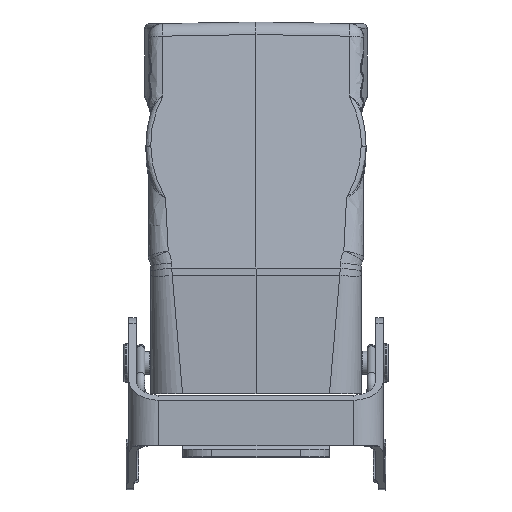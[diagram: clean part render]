
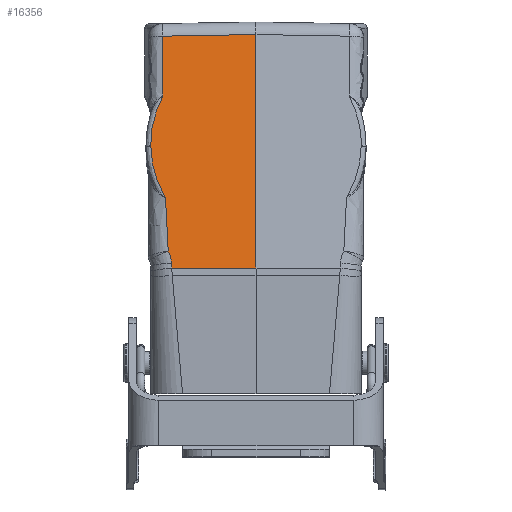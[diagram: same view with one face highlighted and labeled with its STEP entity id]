
A CAD part, left-side view. The second image highlights one B-rep face of the part: STEP entity #16356.
In plain terms, the highlighted planar face has unit normal (-0.989, 0.018, 0.145).
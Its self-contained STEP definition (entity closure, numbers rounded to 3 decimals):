
#449 = CARTESIAN_POINT ( 'NONE',  ( 19.863, 39.393, -59.289 ) ) ;
#986 = CARTESIAN_POINT ( 'NONE',  ( 19.714, 39.329, -60.299 ) ) ;
#1247 = ORIENTED_EDGE ( 'NONE', *, *, #13855, .F. ) ;
#1406 = CARTESIAN_POINT ( 'NONE',  ( 24.468, 42.609, -28.359 ) ) ;
#1798 = CARTESIAN_POINT ( 'NONE',  ( 23.461, 43.627, -35.333 ) ) ;
#2215 = EDGE_CURVE ( 'NONE', #22436, #29848, #15497, .T. ) ;
#2833 = ORIENTED_EDGE ( 'NONE', *, *, #2215, .F. ) ;
#3705 = CARTESIAN_POINT ( 'NONE',  ( 19.787, 39.365, -59.807 ) ) ;
#3736 = CARTESIAN_POINT ( 'NONE',  ( 19.863, 39.393, -59.289 ) ) ;
#4000 = EDGE_CURVE ( 'NONE', #28697, #14974, #29955, .T. ) ;
#4546 = DIRECTION ( 'NONE',  ( -0.145, 0., -0.989 ) ) ;
#4681 = DIRECTION ( 'NONE',  ( 0.989, -0.017, -0.145 ) ) ;
#5615 = CARTESIAN_POINT ( 'NONE',  ( 22.101, 41.57, -44.333 ) ) ;
#5683 = ORIENTED_EDGE ( 'NONE', *, *, #38332, .F. ) ;
#5743 = CARTESIAN_POINT ( 'NONE',  ( 26.717, 41.164, -12.896 ) ) ;
#6670 = CARTESIAN_POINT ( 'NONE',  ( 24.918, 41.14, -25.128 ) ) ;
#7296 = VECTOR ( 'NONE', #13820, 1000. ) ;
#7559 = CARTESIAN_POINT ( 'NONE',  ( 24.918, 41.14, -25.128 ) ) ;
#7623 = CARTESIAN_POINT ( 'NONE',  ( 26.717, 41.164, -12.896 ) ) ;
#7854 = B_SPLINE_CURVE_WITH_KNOTS ( 'NONE', 3,
 ( #21488, #33531, #30308, #39684, #11929, #33394, #15047, #18651, #3705, #30967, #27918, #449 ),
 .UNSPECIFIED., .F., .F.,
 ( 4, 2, 1, 1, 2, 2, 4 ),
 ( 0., 0.25, 0.375, 0.437, 0.469, 0.5, 1. ),
 .UNSPECIFIED. ) ;
#7945 = AXIS2_PLACEMENT_3D ( 'NONE', #35654, #4681, #4546 ) ;
#8127 = CARTESIAN_POINT ( 'NONE',  ( 21.315, 40.458, -49.545 ) ) ;
#8175 = CARTESIAN_POINT ( 'NONE',  ( 20.243, 40.056, -56.776 ) ) ;
#8228 = B_SPLINE_CURVE_WITH_KNOTS ( 'NONE', 3,
 ( #24306, #5615, #39400, #14619, #8815, #36455 ),
 .UNSPECIFIED., .F., .F.,
 ( 4, 2, 4 ),
 ( 0., 0.5, 1. ),
 .UNSPECIFIED. ) ;
#8270 = VERTEX_POINT ( 'NONE', #21212 ) ;
#8815 = CARTESIAN_POINT ( 'NONE',  ( 23.187, 43.604, -37.19 ) ) ;
#8822 = ORIENTED_EDGE ( 'NONE', *, *, #13133, .F. ) ;
#9094 = CARTESIAN_POINT ( 'NONE',  ( 19.863, 39.393, -59.289 ) ) ;
#9461 = VERTEX_POINT ( 'NONE', #15440 ) ;
#10638 = CARTESIAN_POINT ( 'NONE',  ( 26.717, 41.164, -12.896 ) ) ;
#10949 = CARTESIAN_POINT ( 'NONE',  ( 20.78, 40.275, -53.162 ) ) ;
#11084 = CARTESIAN_POINT ( 'NONE',  ( 24.702, 41.974, -26.692 ) ) ;
#11929 = CARTESIAN_POINT ( 'NONE',  ( 19.765, 39.356, -59.95 ) ) ;
#13022 = CARTESIAN_POINT ( 'NONE',  ( 20.118, 39.671, -57.559 ) ) ;
#13133 = EDGE_CURVE ( 'NONE', #8270, #19746, #20604, .T. ) ;
#13820 = DIRECTION ( 'NONE',  ( -0.015, -1., 0.017 ) ) ;
#13855 = EDGE_CURVE ( 'NONE', #37013, #22436, #19102, .T. ) ;
#14619 = CARTESIAN_POINT ( 'NONE',  ( 22.91, 43.332, -39.042 ) ) ;
#14974 = VERTEX_POINT ( 'NONE', #21458 ) ;
#15047 = CARTESIAN_POINT ( 'NONE',  ( 19.782, 39.363, -59.839 ) ) ;
#15295 = EDGE_CURVE ( 'NONE', #14974, #9461, #8228, .T. ) ;
#15440 = CARTESIAN_POINT ( 'NONE',  ( 23.461, 43.627, -35.333 ) ) ;
#15497 = LINE ( 'NONE', #7623, #7296 ) ;
#15628 = EDGE_CURVE ( 'NONE', #29848, #8270, #24168, .T. ) ;
#16356 = ADVANCED_FACE ( 'NONE', ( #19332 ), #32707, .F. ) ;
#17160 = CARTESIAN_POINT ( 'NONE',  ( 20.243, 40.056, -56.776 ) ) ;
#17434 = VECTOR ( 'NONE', #20639, 1000. ) ;
#17536 = CARTESIAN_POINT ( 'NONE',  ( 19.307, 22.111, -61. ) ) ;
#18269 = EDGE_CURVE ( 'NONE', #9461, #37013, #19548, .T. ) ;
#18651 = CARTESIAN_POINT ( 'NONE',  ( 19.785, 39.364, -59.817 ) ) ;
#18688 = CARTESIAN_POINT ( 'NONE',  ( 19.986, 39.444, -58.419 ) ) ;
#18991 = CARTESIAN_POINT ( 'NONE',  ( 26.43, 22.111, -12.563 ) ) ;
#19102 = B_SPLINE_CURVE_WITH_KNOTS ( 'NONE', 3,
 ( #7559, #35187, #19681, #10638 ),
 .UNSPECIFIED., .F., .F.,
 ( 4, 4 ),
 ( 0., 1. ),
 .UNSPECIFIED. ) ;
#19332 = FACE_OUTER_BOUND ( 'NONE', #37876, .T. ) ;
#19548 = B_SPLINE_CURVE_WITH_KNOTS ( 'NONE', 3,
 ( #1798, #26165, #26300, #1406, #11084, #32154 ),
 .UNSPECIFIED., .F., .F.,
 ( 4, 2, 4 ),
 ( 0., 0.5, 1. ),
 .UNSPECIFIED. ) ;
#19681 = CARTESIAN_POINT ( 'NONE',  ( 26.117, 41.166, -16.973 ) ) ;
#19746 = VERTEX_POINT ( 'NONE', #22011 ) ;
#20604 = B_SPLINE_CURVE_WITH_KNOTS ( 'NONE', 3,
 ( #34972, #38054, #34841, #986 ),
 .UNSPECIFIED., .F., .F.,
 ( 4, 4 ),
 ( 0., 1. ),
 .UNSPECIFIED. ) ;
#20639 = DIRECTION ( 'NONE',  ( -0.145, 0., -0.989 ) ) ;
#20726 = ORIENTED_EDGE ( 'NONE', *, *, #15295, .F. ) ;
#21212 = CARTESIAN_POINT ( 'NONE',  ( 19.413, 22.111, -60.277 ) ) ;
#21458 = CARTESIAN_POINT ( 'NONE',  ( 21.85, 40.612, -45.926 ) ) ;
#21488 = CARTESIAN_POINT ( 'NONE',  ( 19.714, 39.329, -60.299 ) ) ;
#22011 = CARTESIAN_POINT ( 'NONE',  ( 19.714, 39.329, -60.299 ) ) ;
#22436 = VERTEX_POINT ( 'NONE', #5743 ) ;
#24168 = LINE ( 'NONE', #17536, #17434 ) ;
#24306 = CARTESIAN_POINT ( 'NONE',  ( 21.85, 40.612, -45.926 ) ) ;
#25705 = ORIENTED_EDGE ( 'NONE', *, *, #39697, .F. ) ;
#26165 = CARTESIAN_POINT ( 'NONE',  ( 23.721, 43.649, -33.566 ) ) ;
#26300 = CARTESIAN_POINT ( 'NONE',  ( 23.978, 43.448, -31.796 ) ) ;
#27838 = ORIENTED_EDGE ( 'NONE', *, *, #15628, .F. ) ;
#27918 = CARTESIAN_POINT ( 'NONE',  ( 19.843, 39.386, -59.424 ) ) ;
#28697 = VERTEX_POINT ( 'NONE', #8175 ) ;
#29848 = VERTEX_POINT ( 'NONE', #18991 ) ;
#29955 = B_SPLINE_CURVE_WITH_KNOTS ( 'NONE', 3,
 ( #17160, #10949, #8127, #32413 ),
 .UNSPECIFIED., .F., .F.,
 ( 4, 4 ),
 ( 0., 1. ),
 .UNSPECIFIED. ) ;
#30308 = CARTESIAN_POINT ( 'NONE',  ( 19.737, 39.342, -60.14 ) ) ;
#30967 = CARTESIAN_POINT ( 'NONE',  ( 19.818, 39.377, -59.592 ) ) ;
#31213 = B_SPLINE_CURVE_WITH_KNOTS ( 'NONE', 3,
 ( #3736, #18688, #13022, #34475 ),
 .UNSPECIFIED., .F., .F.,
 ( 4, 4 ),
 ( 0., 1. ),
 .UNSPECIFIED. ) ;
#32154 = CARTESIAN_POINT ( 'NONE',  ( 24.918, 41.14, -25.128 ) ) ;
#32406 = VERTEX_POINT ( 'NONE', #9094 ) ;
#32413 = CARTESIAN_POINT ( 'NONE',  ( 21.85, 40.612, -45.926 ) ) ;
#32707 = PLANE ( 'NONE',  #7945 ) ;
#33394 = CARTESIAN_POINT ( 'NONE',  ( 19.777, 39.361, -59.873 ) ) ;
#33531 = CARTESIAN_POINT ( 'NONE',  ( 19.725, 39.336, -60.221 ) ) ;
#34475 = CARTESIAN_POINT ( 'NONE',  ( 20.243, 40.056, -56.776 ) ) ;
#34759 = ORIENTED_EDGE ( 'NONE', *, *, #4000, .F. ) ;
#34841 = CARTESIAN_POINT ( 'NONE',  ( 19.613, 33.59, -60.291 ) ) ;
#34972 = CARTESIAN_POINT ( 'NONE',  ( 19.413, 22.111, -60.277 ) ) ;
#35187 = CARTESIAN_POINT ( 'NONE',  ( 25.518, 41.173, -21.051 ) ) ;
#35654 = CARTESIAN_POINT ( 'NONE',  ( 19.307, 22.111, -61. ) ) ;
#36455 = CARTESIAN_POINT ( 'NONE',  ( 23.461, 43.627, -35.333 ) ) ;
#37013 = VERTEX_POINT ( 'NONE', #6670 ) ;
#37353 = ORIENTED_EDGE ( 'NONE', *, *, #18269, .F. ) ;
#37876 = EDGE_LOOP ( 'NONE', ( #5683, #8822, #27838, #2833, #1247, #37353, #20726, #34759, #25705 ) ) ;
#38054 = CARTESIAN_POINT ( 'NONE',  ( 19.513, 27.85, -60.284 ) ) ;
#38332 = EDGE_CURVE ( 'NONE', #19746, #32406, #7854, .T. ) ;
#39400 = CARTESIAN_POINT ( 'NONE',  ( 22.367, 42.316, -42.614 ) ) ;
#39684 = CARTESIAN_POINT ( 'NONE',  ( 19.756, 39.352, -60.014 ) ) ;
#39697 = EDGE_CURVE ( 'NONE', #32406, #28697, #31213, .T. ) ;
